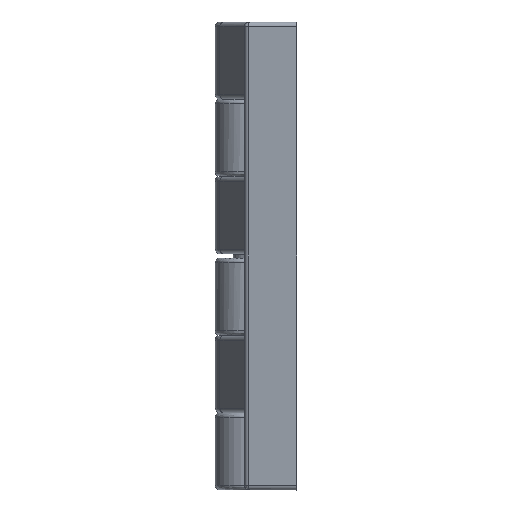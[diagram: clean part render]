
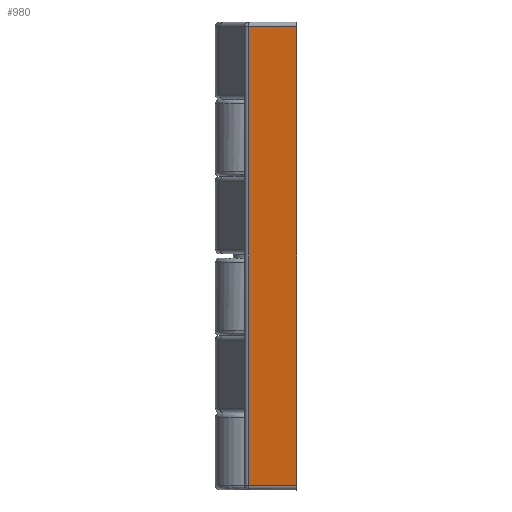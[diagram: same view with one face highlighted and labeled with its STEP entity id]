
A CAD part, left-side view. The second image highlights one B-rep face of the part: STEP entity #980.
In plain terms, the highlighted planar face has unit normal (-0.985, 0.171, 0).
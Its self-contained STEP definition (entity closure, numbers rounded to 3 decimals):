
#681 = VERTEX_POINT ( 'NONE', #2674 ) ;
#737 = EDGE_CURVE ( 'NONE', #782, #681, #3271, .T. ) ;
#782 = VERTEX_POINT ( 'NONE', #3691 ) ;
#788 = EDGE_CURVE ( 'NONE', #790, #789, #3658, .T. ) ;
#789 = VERTEX_POINT ( 'NONE', #3657 ) ;
#790 = VERTEX_POINT ( 'NONE', #3739 ) ;
#980 = ADVANCED_FACE ( 'NONE', ( #3882 ), #3883, .F. ) ;
#981 = EDGE_LOOP ( 'NONE', ( #983, #984, #1124, #985 ) ) ;
#982 = EDGE_CURVE ( 'NONE', #790, #681, #3868, .T. ) ;
#983 = ORIENTED_EDGE ( 'NONE', *, *, #737, .F. ) ;
#984 = ORIENTED_EDGE ( 'NONE', *, *, #1017, .T. ) ;
#985 = ORIENTED_EDGE ( 'NONE', *, *, #982, .T. ) ;
#1017 = EDGE_CURVE ( 'NONE', #782, #789, #4098, .T. ) ;
#1124 = ORIENTED_EDGE ( 'NONE', *, *, #788, .F. ) ;
#2674 = CARTESIAN_POINT ( 'NONE',  ( -40., -9.5, 50.5 ) ) ;
#3266 = DIRECTION ( 'NONE',  ( -0.171, -0.985, 0. ) ) ;
#3267 = VECTOR ( 'NONE', #3266, 1000. ) ;
#3268 = CARTESIAN_POINT ( 'NONE',  ( -39.072, -4.164, 50.5 ) ) ;
#3271 = LINE ( 'NONE', #3268, #3267 ) ;
#3657 = CARTESIAN_POINT ( 'NONE',  ( -38.144, 1.171, -50.5 ) ) ;
#3658 = LINE ( 'NONE', #3659, #3738 ) ;
#3659 = CARTESIAN_POINT ( 'NONE',  ( -39.072, -4.164, -50.5 ) ) ;
#3691 = CARTESIAN_POINT ( 'NONE',  ( -38.144, 1.171, 50.5 ) ) ;
#3737 = DIRECTION ( 'NONE',  ( 0.171, 0.985, 0. ) ) ;
#3738 = VECTOR ( 'NONE', #3737, 1000. ) ;
#3739 = CARTESIAN_POINT ( 'NONE',  ( -40., -9.5, -50.5 ) ) ;
#3862 = DIRECTION ( 'NONE',  ( 0., 0., 1. ) ) ;
#3863 = VECTOR ( 'NONE', #3862, 1000. ) ;
#3864 = CARTESIAN_POINT ( 'NONE',  ( -40., -9.5, 0. ) ) ;
#3866 = DIRECTION ( 'NONE',  ( 0.171, 0.985, 0. ) ) ;
#3867 = DIRECTION ( 'NONE',  ( 0.985, -0.171, 0. ) ) ;
#3868 = LINE ( 'NONE', #3864, #3863 ) ;
#3875 = CARTESIAN_POINT ( 'NONE',  ( -40., -9.5, -50.5 ) ) ;
#3877 = AXIS2_PLACEMENT_3D ( 'NONE', #3875, #3867, #3866 ) ;
#3882 = FACE_OUTER_BOUND ( 'NONE', #981, .T. ) ;
#3883 = PLANE ( 'NONE',  #3877 ) ;
#4094 = DIRECTION ( 'NONE',  ( 0., 0., -1. ) ) ;
#4095 = VECTOR ( 'NONE', #4094, 1000. ) ;
#4097 = CARTESIAN_POINT ( 'NONE',  ( -38.144, 1.171, 0. ) ) ;
#4098 = LINE ( 'NONE', #4097, #4095 ) ;
